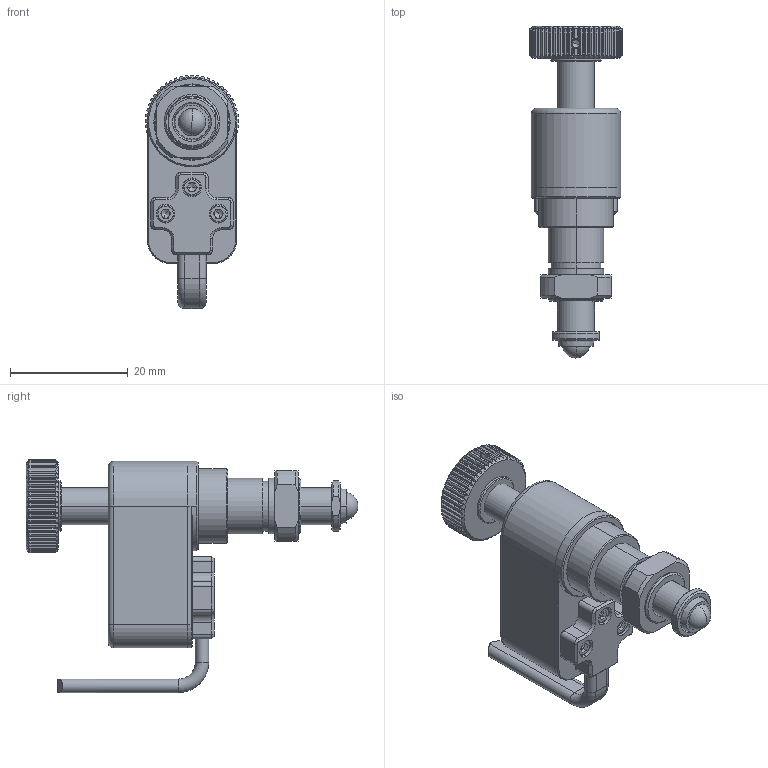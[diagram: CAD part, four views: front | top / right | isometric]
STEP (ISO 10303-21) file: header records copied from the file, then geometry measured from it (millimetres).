
FILE_DESCRIPTION (( 'STEP AP214' ), '1' );
FILE_NAME ('N81揤萇蹟裝峚覃ん.STEP', '2023-12-21T08:37:53', ( 'Sky123.Org' ), ( 'Sky123.Org' ), 'SwSTEP 2.0', 'SolidWorks 2016', '' );
FILE_SCHEMA (( 'AUTOMOTIVE_DESIGN' ));
Length unit declared in the file: millimetre
Products named in the file (1): N81揤萇蹟裝峚覃ん
Bounding box: 15.9 x 56.5 x 39.7 mm (x, y, z)
Volume: 6808 mm3; surface area: 9306.4 mm2
Topology: 17 solids, 17 shells, 726 faces, 1844 edges, 1158 vertices
Faces by surface type: plane 312, cylinder 280, cone 114, torus 17, sphere 2, bspline 1
Entity records: 32297 total; most frequent: CARTESIAN_POINT 7036, ORIENTED_EDGE 3630, DIRECTION 3449, EDGE_CURVE 1815, AXIS2_PLACEMENT_3D 1318, VERTEX_POINT 1155, LINE 813, VECTOR 813
